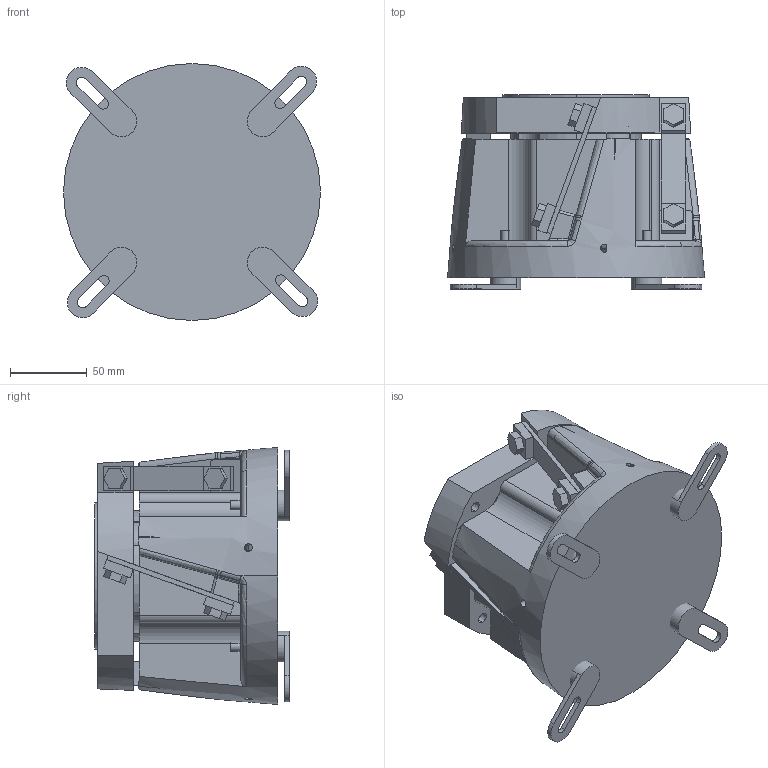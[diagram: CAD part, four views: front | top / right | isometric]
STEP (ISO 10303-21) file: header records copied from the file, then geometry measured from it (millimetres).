
FILE_DESCRIPTION (( 'STEP AP214' ), '1' );
FILE_NAME ('JM-150.STEP', '2022-04-21T03:54:00', ( '' ), ( '' ), 'SwSTEP 2.0', 'SolidWorks 2018', '' );
FILE_SCHEMA (( 'AUTOMOTIVE_DESIGN' ));
Length unit declared in the file: millimetre
Products named in the file (3): JM150-0; 20   華褐; JM-150
Assembly tree (5 placements, depth 2):
  JM-150
    JM150-0
    20   華褐  x4
Bounding box: 167.17 x 126.5 x 167.17 mm (x, y, z)
Volume: 1850527.6 mm3; surface area: 230743.7 mm2
Topology: 29 solids, 29 shells, 735 faces, 1834 edges, 1179 vertices
Faces by surface type: plane 369, cylinder 268, bspline 46, sphere 24, torus 14, cone 14
Entity records: 24122 total; most frequent: CARTESIAN_POINT 7701, ORIENTED_EDGE 3416, DIRECTION 3059, EDGE_CURVE 1708, VERTEX_POINT 1113, AXIS2_PLACEMENT_3D 1058, VECTOR 943, LINE 943
